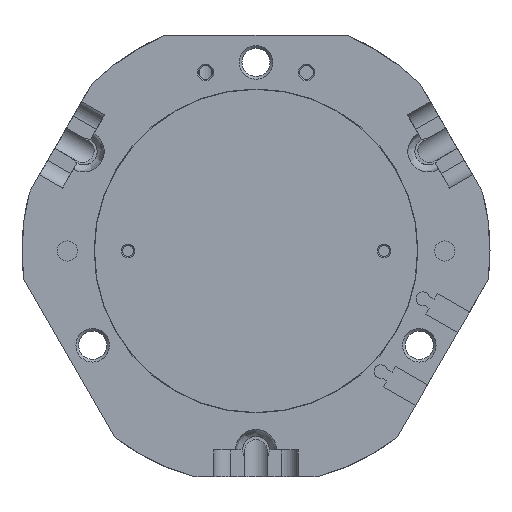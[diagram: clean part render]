
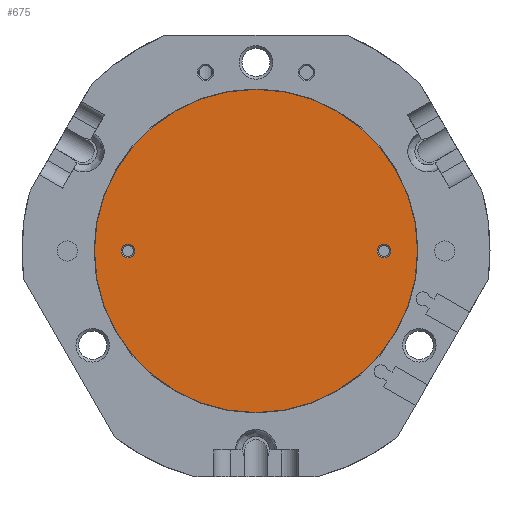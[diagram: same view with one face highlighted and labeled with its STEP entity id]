
A CAD part, front view. The second image highlights one B-rep face of the part: STEP entity #675.
In plain terms, the highlighted planar face has unit normal (0, -1, 0).
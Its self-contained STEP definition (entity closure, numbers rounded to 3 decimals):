
#675 = ADVANCED_FACE( '', ( #1558, #1559, #1560 ), #1561, .F. );
#1558 = FACE_BOUND( '', #2693, .T. );
#1559 = FACE_OUTER_BOUND( '', #2694, .T. );
#1560 = FACE_BOUND( '', #2695, .T. );
#1561 = PLANE( '', #2696 );
#2693 = EDGE_LOOP( '', ( #4515 ) );
#2694 = EDGE_LOOP( '', ( #4516 ) );
#2695 = EDGE_LOOP( '', ( #4517 ) );
#2696 = AXIS2_PLACEMENT_3D( '', #4518, #4519, #4520 );
#4515 = ORIENTED_EDGE( '', *, *, #6851, .F. );
#4516 = ORIENTED_EDGE( '', *, *, #6540, .F. );
#4517 = ORIENTED_EDGE( '', *, *, #6902, .F. );
#4518 = CARTESIAN_POINT( '', ( 0., 0., 0. ) );
#4519 = DIRECTION( '', ( 0., 1., 0. ) );
#4520 = DIRECTION( '', ( 0., 0., 1. ) );
#6540 = EDGE_CURVE( '', #7814, #7814, #7815, .T. );
#6851 = EDGE_CURVE( '', #8321, #8321, #8322, .T. );
#6902 = EDGE_CURVE( '', #8400, #8400, #8401, .T. );
#7814 = VERTEX_POINT( '', #9576 );
#7815 = CIRCLE( '', #9577, 48. );
#8321 = VERTEX_POINT( '', #10275 );
#8322 = CIRCLE( '', #10276, 2. );
#8400 = VERTEX_POINT( '', #10384 );
#8401 = CIRCLE( '', #10385, 2. );
#9576 = CARTESIAN_POINT( '', ( 48., 0., 0. ) );
#9577 = AXIS2_PLACEMENT_3D( '', #11582, #11583, #11584 );
#10275 = CARTESIAN_POINT( '', ( 38., 0., -2. ) );
#10276 = AXIS2_PLACEMENT_3D( '', #11958, #11959, #11960 );
#10384 = CARTESIAN_POINT( '', ( -38., 0., -2. ) );
#10385 = AXIS2_PLACEMENT_3D( '', #12015, #12016, #12017 );
#11582 = CARTESIAN_POINT( '', ( 0., 0., 0. ) );
#11583 = DIRECTION( '', ( 0., 1., 0. ) );
#11584 = DIRECTION( '', ( 1., 0., 0. ) );
#11958 = CARTESIAN_POINT( '', ( 38., 0., 0. ) );
#11959 = DIRECTION( '', ( 0., -1., 0. ) );
#11960 = DIRECTION( '', ( 0., 0., -1. ) );
#12015 = CARTESIAN_POINT( '', ( -38., 0., 0. ) );
#12016 = DIRECTION( '', ( 0., -1., 0. ) );
#12017 = DIRECTION( '', ( 0., 0., -1. ) );
